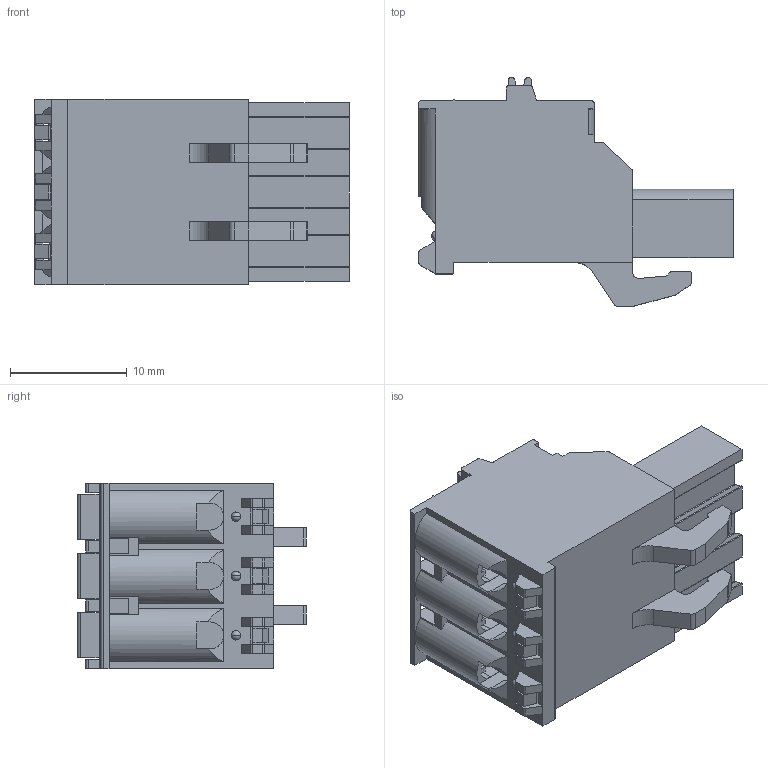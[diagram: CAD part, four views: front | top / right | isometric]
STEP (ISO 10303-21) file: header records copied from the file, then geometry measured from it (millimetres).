
FILE_DESCRIPTION((''),'2;1');
FILE_NAME('3PIN_SW0001','2019-05-28T',('zhenbing.lai'),(''),'CREO PARAMETRIC BY PTC INC, 2016260','CREO PARAMETRIC BY PTC INC, 2016260','');
FILE_SCHEMA(('CONFIG_CONTROL_DESIGN'));
Length unit declared in the file: millimetre
Products named in the file (1): 3PIN_SW0001
Bounding box: 26.9 x 19.58 x 15.86 mm (x, y, z)
Volume: 4015.5 mm3; surface area: 2867 mm2
Topology: 1 solids, 1 shells, 521 faces, 1539 edges, 1015 vertices
Faces by surface type: plane 352, cylinder 142, cone 15, bspline 6, sphere 6
Entity records: 17657 total; most frequent: CARTESIAN_POINT 3447, ORIENTED_EDGE 3066, DIRECTION 2878, EDGE_CURVE 1533, VECTOR 1132, LINE 1132, VERTEX_POINT 1015, AXIS2_PLACEMENT_3D 873
